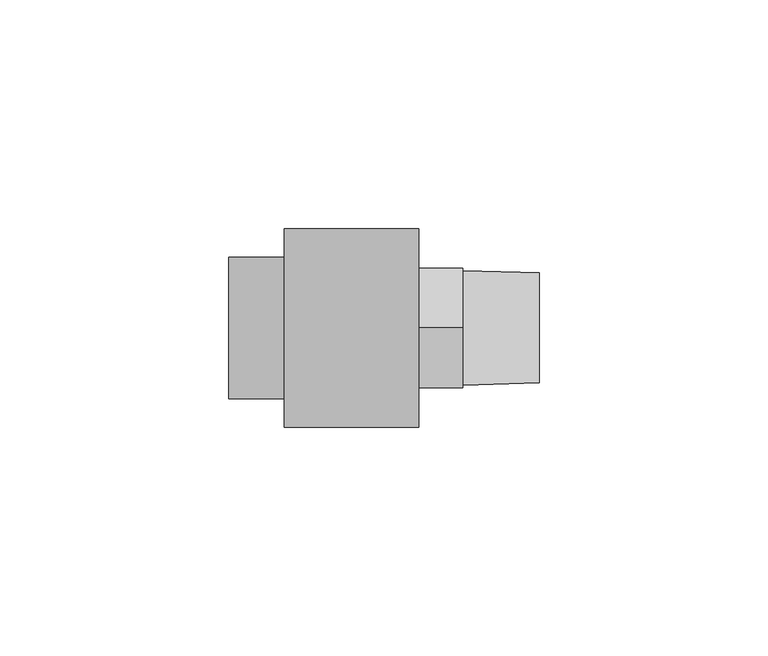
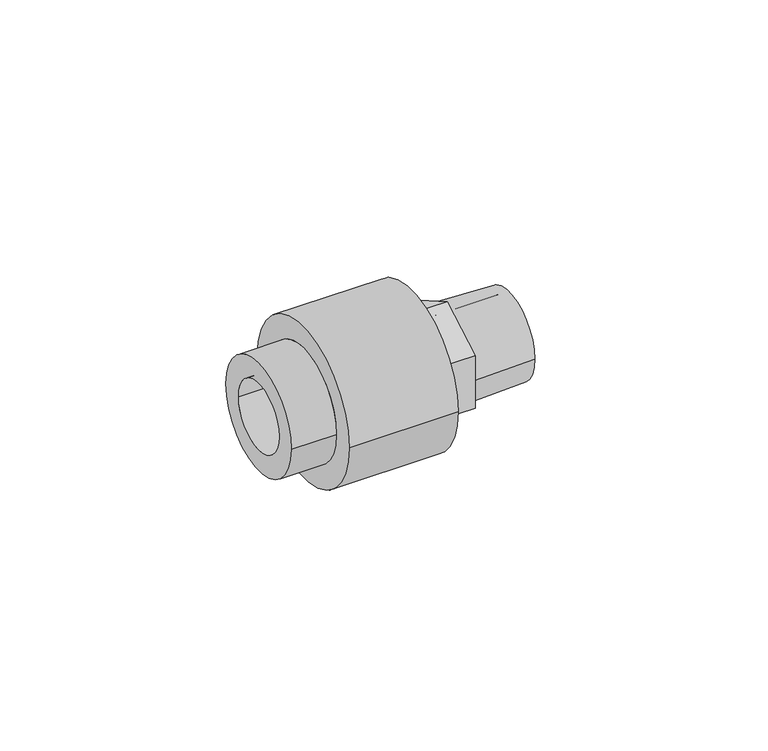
"""IFC4 building model written with IfcOpenShell, lengths in millimetres: pipe fitting geometry, Aquatherm - Fusion Outlet Transition Male : POTABLE BRASS - HEX."""

from ifc_helpers import new_model, si_unit, frame, origin, place, context, project, spatial, polyline, circle_curve, source, transform, mapped, element, save
from ifc_brep_helpers import plane_surface, cylinder_surface, revolved_surface, advanced_brep


def pipe_fitting_989b04a6(model_context):
    return source(origin(), model_context, "Body", "AdvancedBrep", [
        advanced_brep(
        [(9.1241563, 15.494, 0.0), (9.1241563, -15.494, 0.0), (9.1241563, 9.525, 0.0), (9.1241563, -9.525, 0.0), (29.4441563, 15.494, 0.0), (29.4441563, -15.494, 0.0), (29.4441563, 0.0, -15.1046377), (29.4441563, -13.081, -7.5523189), (29.4441563, -13.081, 7.5523189), (29.4441563, 0.0, 15.1046377), (29.4441563, 13.081, 7.5523189), (29.4441563, 13.081, -7.5523189), (29.4441563, 9.525, 0.0), (29.4441563, -9.525, 0.0), (39.0961563, 0.0, -15.1046377), (39.0961563, 13.081, -7.5523189), (39.0961563, 13.081, 7.5523189), (39.0961563, 0.0, 15.1046377), (39.0961563, -13.081, 7.5523189), (39.0961563, -13.081, -7.5523189), (39.0961563, 12.5560449, 0.0), (39.0961563, -12.5560449, 0.0), (39.0961563, 9.525, 0.0), (39.0961563, -9.525, 0.0), (55.8601563, -9.525, 0.0), (55.8601563, 9.525, 0.0), (55.8601563, -12.0502051, 0.0), (55.8601563, 12.0502051, 0.0)],
        [
            (0, 1, circle_curve(frame((9.1241563, 0.0, 0.0), z_axis=(-1.0, 0.0, 0.0), x_axis=(0.0, -1.0, 0.0)), 15.494)),
            (1, 0, circle_curve(frame((9.1241563, 0.0, 0.0), z_axis=(-1.0, 0.0, 0.0), x_axis=(0.0, -1.0, 0.0)), 15.494)),
            (2, 3, circle_curve(frame((9.1241563, 0.0, 0.0), z_axis=(1.0, 0.0, 0.0), x_axis=(0.0, -1.0, 0.0)), 9.525)),
            (3, 2, circle_curve(frame((9.1241563, 0.0, 0.0), z_axis=(1.0, 0.0, 0.0), x_axis=(0.0, -1.0, 0.0)), 9.525)),
            (4, 5, circle_curve(frame((29.4441563, 0.0, 0.0), z_axis=(1.0, 0.0, 0.0), x_axis=(0.0, -1.0, 0.0)), 15.494)),
            (5, 4, circle_curve(frame((29.4441563, 0.0, 0.0), z_axis=(1.0, 0.0, 0.0), x_axis=(0.0, -1.0, 0.0)), 15.494)),
            (6, 7),
            (7, 8),
            (8, 9),
            (9, 10),
            (10, 11),
            (11, 6),
            (0, 4),
            (5, 1),
            (2, 12),
            (12, 13, circle_curve(frame((29.4441563, 0.0, 0.0), z_axis=(1.0, 0.0, 0.0), x_axis=(0.0, -1.0, 0.0)), 9.525)),
            (13, 3),
            (13, 12, circle_curve(frame((29.4441563, 0.0, 0.0), z_axis=(1.0, 0.0, 0.0), x_axis=(0.0, -1.0, 0.0)), 9.525)),
            (14, 15),
            (15, 16),
            (16, 17),
            (17, 18),
            (18, 19),
            (19, 14),
            (20, 21, circle_curve(frame((39.0961563, 0.0, 0.0), z_axis=(-1.0, 0.0, 0.0), x_axis=(0.0, -1.0, 0.0)), 12.5560449)),
            (21, 20, circle_curve(frame((39.0961563, 0.0, 0.0), z_axis=(-1.0, 0.0, 0.0), x_axis=(0.0, -1.0, 0.0)), 12.5560449)),
            (19, 7),
            (6, 14),
            (18, 8),
            (17, 9),
            (16, 10),
            (15, 11),
            (12, 22),
            (22, 23, circle_curve(frame((39.0961563, 0.0, 0.0), z_axis=(1.0, 0.0, 0.0), x_axis=(0.0, -1.0, 0.0)), 9.525)),
            (23, 13),
            (23, 22, circle_curve(frame((39.0961563, 0.0, 0.0), z_axis=(1.0, 0.0, 0.0), x_axis=(0.0, -1.0, 0.0)), 9.525)),
            (23, 24),
            (24, 25, circle_curve(frame((55.8601563, 0.0, 0.0), z_axis=(1.0, 0.0, 0.0), x_axis=(0.0, -1.0, 0.0)), 9.525)),
            (25, 22),
            (25, 24, circle_curve(frame((55.8601563, 0.0, 0.0), z_axis=(1.0, 0.0, 0.0), x_axis=(0.0, -1.0, 0.0)), 9.525)),
            (24, 26),
            (26, 27, circle_curve(frame((55.8601563, 0.0, 0.0), z_axis=(1.0, 0.0, 0.0), x_axis=(0.0, -1.0, 0.0)), 12.0502051)),
            (27, 25),
            (27, 26, circle_curve(frame((55.8601563, 0.0, 0.0), z_axis=(1.0, 0.0, 0.0), x_axis=(0.0, -1.0, 0.0)), 12.0502051)),
            (26, 21),
            (20, 27),
        ],
        [
            plane_surface(frame((9.1241563, -15.494, 0.0), z_axis=(-1.0, 0.0, 0.0), x_axis=(0.0, 0.0, 1.0))),
            plane_surface(frame((29.4441563, -15.494, 0.0), z_axis=(1.0, 0.0, 0.0), x_axis=(0.0, 0.0, -1.0))),
            cylinder_surface(frame((29.4441563, 0.0, 0.0), z_axis=(-1.0, 0.0, 0.0), x_axis=(0.0, -1.0, 0.0)), 15.494),
            revolved_surface(polyline([(29.444156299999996, -9.525, 0.0), (9.1241563, -9.525, 0.0)]), (11.9969372, 0.0, 0.0), (1.0, 0.0, 0.0)),
            plane_surface(frame((39.0961563, 0.0, -15.1046377), z_axis=(1.0000000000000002, 0.0, 0.0), x_axis=(0.0, 0.8660254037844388, -0.49999999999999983))),
            plane_surface(frame((29.4441563, 0.0, -15.1046377), z_axis=(0.0, -0.49999999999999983, -0.8660254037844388), x_axis=(1.0, 0.0, 0.0))),
            plane_surface(frame((29.4441563, -13.081, -7.5523189), z_axis=(0.0, -1.0, 0.0), x_axis=(1.0, 0.0, 0.0))),
            plane_surface(frame((29.4441563, -13.081, 7.5523189), z_axis=(0.0, -0.4999999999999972, 0.8660254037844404), x_axis=(1.0, 0.0, 0.0))),
            plane_surface(frame((29.4441563, 0.0, 15.1046377), z_axis=(0.0, 0.500000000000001, 0.8660254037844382), x_axis=(1.0, 0.0, 0.0))),
            plane_surface(frame((29.4441563, 13.081, 7.5523189), z_axis=(0.0, 1.0, 0.0), x_axis=(1.0, 0.0, 0.0))),
            plane_surface(frame((29.4441563, 13.081, -7.5523189), z_axis=(0.0, 0.49999999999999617, -0.8660254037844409), x_axis=(1.0, 0.0, 0.0))),
            revolved_surface(polyline([(39.0961563, -9.525, 0.0), (29.4441563, -9.525, 0.0)]), (29.4441563, 0.0, 0.0), (1.0, 0.0, 0.0)),
            revolved_surface(polyline([(55.8601563, -9.525, 0.0), (39.0961563, -9.525, 0.0)]), (90.7332251, 0.0, 0.0), (1.0, 0.0, 0.0)),
            plane_surface(frame((55.8601563, 0.0, 0.0), z_axis=(1.0, 0.0, 0.0), x_axis=(0.0, -1.0, 0.0))),
            revolved_surface(polyline([(39.0961563, -12.5560449, 0.0), (55.8601563, -12.0502051, 0.0)]), (90.7332251, 0.0, 0.0), (1.0, 0.0, 0.0)),
        ],
        [
            (0, [[1, 2], [3, 4]]),
            (1, [[5, 6], [7, 8, 9, 10, 11, 12]]),
            (2, [[-1, 13, -6, 14]]),
            (2, [[-2, -14, -5, -13]]),
            (3, [[-3, 15, 16, 17]]),
            (3, [[-4, -17, 18, -15]]),
            (4, [[19, 20, 21, 22, 23, 24], [25, 26]]),
            (5, [[-24, 27, -7, 28]]),
            (6, [[-23, 29, -8, -27]]),
            (7, [[-22, 30, -9, -29]]),
            (8, [[-21, 31, -10, -30]]),
            (9, [[-20, 32, -11, -31]]),
            (10, [[-19, -28, -12, -32]]),
            (11, [[33, 34, 35, -16]]),
            (11, [[-33, -18, -35, 36]]),
            (12, [[37, 38, 39, -36]]),
            (12, [[-37, -34, -39, 40]]),
            (13, [[-38, 41, 42, 43]]),
            (13, [[-40, -43, 44, -41]]),
            (14, [[-42, 45, -25, 46]]),
            (14, [[-44, -46, -26, -45]]),
        ],
    ),
        advanced_brep(
        [(9.128125, 15.478125, 0.0), (9.128125, -15.478125, 0.0), (9.128125, 9.525, 0.0), (9.128125, -9.525, 0.0), (-12.1508108, -9.525, 0.0), (-12.1508108, 9.525, 0.0), (-12.1508108, -15.478125, 0.0), (-12.1508108, 15.478125, 0.0), (0.0, 15.478125, 0.0), (0.0, -15.478125, 0.0), (29.4441562, 21.7289063, 0.0), (29.4441562, -21.7289063, 0.0), (29.4441562, 15.478125, 0.0), (29.4441562, -15.478125, 0.0), (0.0, -21.7289063, 0.0), (0.0, 21.7289063, 0.0)],
        [
            (0, 1, circle_curve(frame((9.128125, 0.0, 0.0), z_axis=(1.0, 0.0, 0.0), x_axis=(0.0, -1.0, 0.0)), 15.478125)),
            (1, 0, circle_curve(frame((9.128125, 0.0, 0.0), z_axis=(1.0, 0.0, 0.0), x_axis=(0.0, -1.0, 0.0)), 15.478125)),
            (2, 3, circle_curve(frame((9.128125, 0.0, 0.0), z_axis=(-1.0, 0.0, 0.0), x_axis=(0.0, -1.0, 0.0)), 9.525)),
            (3, 2, circle_curve(frame((9.128125, 0.0, 0.0), z_axis=(-1.0, 0.0, 0.0), x_axis=(0.0, -1.0, 0.0)), 9.525)),
            (4, 5, circle_curve(frame((-12.1508108, 0.0, 0.0), z_axis=(-1.0, 0.0, 0.0), x_axis=(0.0, -1.0, 0.0)), 9.525)),
            (5, 2),
            (3, 4),
            (5, 4, circle_curve(frame((-12.1508108, 0.0, 0.0), z_axis=(-1.0, 0.0, 0.0), x_axis=(0.0, -1.0, 0.0)), 9.525)),
            (6, 7, circle_curve(frame((-12.1508108, 0.0, 0.0), z_axis=(1.0, 0.0, 0.0), x_axis=(0.0, -1.0, 0.0)), 15.478125)),
            (7, 8),
            (8, 9, circle_curve(frame((0.0, 0.0, 0.0), z_axis=(-1.0, 0.0, 0.0), x_axis=(0.0, -1.0, 0.0)), 15.478125)),
            (9, 6),
            (7, 6, circle_curve(frame((-12.1508108, 0.0, 0.0), z_axis=(1.0, 0.0, 0.0), x_axis=(0.0, -1.0, 0.0)), 15.478125)),
            (9, 8, circle_curve(frame((0.0, 0.0, 0.0), z_axis=(-1.0, 0.0, 0.0), x_axis=(0.0, -1.0, 0.0)), 15.478125)),
            (10, 11, circle_curve(frame((29.4441562, 0.0, 0.0), z_axis=(1.0, 0.0, 0.0), x_axis=(0.0, -1.0, 0.0)), 21.7289063)),
            (11, 10, circle_curve(frame((29.4441562, 0.0, 0.0), z_axis=(1.0, 0.0, 0.0), x_axis=(0.0, -1.0, 0.0)), 21.7289063)),
            (12, 13, circle_curve(frame((29.4441562, 0.0, 0.0), z_axis=(-1.0, 0.0, 0.0), x_axis=(0.0, -1.0, 0.0)), 15.478125)),
            (13, 12, circle_curve(frame((29.4441562, 0.0, 0.0), z_axis=(-1.0, 0.0, 0.0), x_axis=(0.0, -1.0, 0.0)), 15.478125)),
            (13, 1),
            (0, 12),
            (11, 14),
            (14, 15, circle_curve(frame((0.0, 0.0, 0.0), z_axis=(1.0, 0.0, 0.0), x_axis=(0.0, -1.0, 0.0)), 21.7289063)),
            (15, 10),
            (15, 14, circle_curve(frame((0.0, 0.0, 0.0), z_axis=(1.0, 0.0, 0.0), x_axis=(0.0, -1.0, 0.0)), 21.7289063)),
        ],
        [
            plane_surface(frame((9.128125, -9.525, 0.0), z_axis=(1.0, 0.0, 0.0), x_axis=(0.0, 0.0, 1.0))),
            revolved_surface(polyline([(9.128125, -9.525, 0.0), (-12.150810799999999, -9.525, 0.0)]), (9.128125, 0.0, 0.0), (1.0, 0.0, 0.0)),
            cylinder_surface(frame((0.0, 0.0, 0.0), z_axis=(-1.0, 0.0, 0.0), x_axis=(0.0, -1.0, 0.0)), 15.478125),
            plane_surface(frame((29.4441562, -15.478125, 0.0), z_axis=(1.0, 0.0, 0.0), x_axis=(0.0, 0.0, 1.0))),
            revolved_surface(polyline([(29.4441562, -15.478125, 0.0), (9.128125, -15.478125, 0.0)]), (29.4441562, 0.0, 0.0), (1.0, 0.0, 0.0)),
            cylinder_surface(frame((0.0, 0.0, 0.0), z_axis=(-1.0, 0.0, 0.0), x_axis=(0.0, -1.0, 0.0)), 21.7289063),
            plane_surface(frame((-12.1508108, -9.525, 0.0), z_axis=(-1.0, 0.0, 0.0), x_axis=(0.0, 0.0, -1.0))),
            plane_surface(frame((0.0, -15.478125, 0.0), z_axis=(-1.0, 0.0, 0.0), x_axis=(0.0, 0.0, -1.0))),
        ],
        [
            (0, [[1, 2], [3, 4]]),
            (1, [[5, 6, -4, 7]]),
            (1, [[8, -7, -3, -6]]),
            (2, [[9, 10, 11, 12]]),
            (2, [[13, -12, 14, -10]]),
            (3, [[15, 16], [17, 18]]),
            (4, [[-18, 19, -1, 20]]),
            (4, [[-17, -20, -2, -19]]),
            (5, [[-16, 21, 22, 23]]),
            (5, [[-15, -23, 24, -21]]),
            (6, [[-9, -13], [-5, -8]]),
            (7, [[-22, -24], [-11, -14]]),
        ],
    ),
    ])


if __name__ == "__main__":
    model = new_model("IFC4")
    model_context = context("Model", 3, world=origin())
    ifc_project = project(units=[si_unit("LENGTHUNIT", "METRE", prefix="MILLI")], contexts=[model_context])
    site = spatial("IfcSite", under=ifc_project)
    building = spatial("IfcBuilding", under=site)
    placement = place(None, origin())
    pipe_fitting_shape = pipe_fitting_989b04a6(model_context)
    element("IfcPipeFitting", 1, ObjectType="Aquatherm - Fusion Outlet Transition Male : POTABLE BRASS - HEX", at=placement, inside=building, context=model_context, shape_type="MappedRepresentation", body=[
        mapped(pipe_fitting_shape, transform((0.0, 0.0, 0.0), x_axis=(1.0, 0.0, 0.0), y_axis=(0.0, 1.0, 0.0), z_axis=(0.0, 0.0, 1.0))),
    ])
    save(model, "model.ifc")
